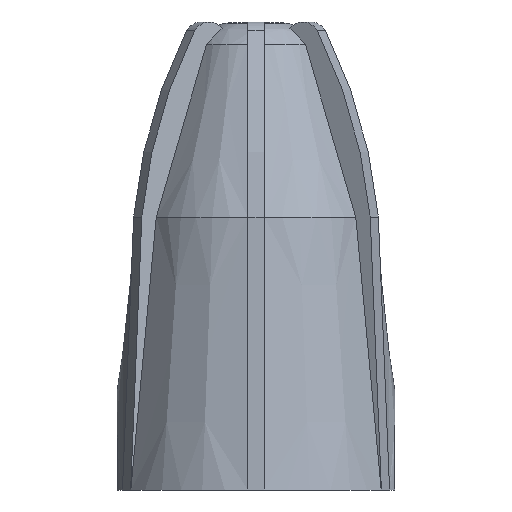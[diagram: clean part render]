
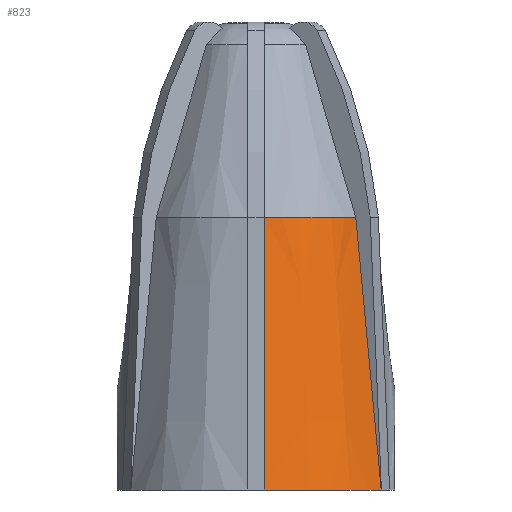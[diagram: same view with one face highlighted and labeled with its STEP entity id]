
A CAD part, left-side view. The second image highlights one B-rep face of the part: STEP entity #823.
In plain terms, the highlighted conical face has half-angle 6.114 degrees and reference radius 9.15 mm.
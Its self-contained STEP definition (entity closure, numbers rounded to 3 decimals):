
#329 = ORIENTED_EDGE ( 'NONE', *, *, #1893, .F. ) ;
#389 = ORIENTED_EDGE ( 'NONE', *, *, #1204, .F. ) ;
#401 = AXIS2_PLACEMENT_3D ( 'NONE', #543, #1621, #679 ) ;
#477 = VERTEX_POINT ( 'NONE', #633 ) ;
#533 = EDGE_CURVE ( 'NONE', #1678, #477, #964, .T. ) ;
#534 = DIRECTION ( 'NONE',  ( 0., 0., -1. ) ) ;
#543 = CARTESIAN_POINT ( 'NONE',  ( 0., 0., 0. ) ) ;
#561 = VERTEX_POINT ( 'NONE', #737 ) ;
#620 = CARTESIAN_POINT ( 'NONE',  ( -4.578, -6.929, 7.892 ) ) ;
#633 = CARTESIAN_POINT ( 'NONE',  ( -9.136, -0.5, 0. ) ) ;
#679 = DIRECTION ( 'NONE',  ( -1., 0., 0. ) ) ;
#691 = EDGE_LOOP ( 'NONE', ( #329, #1494, #1664, #389 ) ) ;
#737 = CARTESIAN_POINT ( 'NONE',  ( -4.105, -6.109, 16.71 ) ) ;
#823 = ADVANCED_FACE ( 'NONE', ( #1982 ), #1393, .T. ) ;
#826 = CARTESIAN_POINT ( 'NONE',  ( -4.939, -7.554, 1.161 ) ) ;
#861 = EDGE_CURVE ( 'NONE', #561, #1678, #1233, .T. ) ;
#863 = DIRECTION ( 'NONE',  ( 0., 0., -1. ) ) ;
#915 = CARTESIAN_POINT ( 'NONE',  ( -7.343, -0.5, 16.71 ) ) ;
#943 = CARTESIAN_POINT ( 'NONE',  ( -8.539, -0.5, 5.57 ) ) ;
#964 = B_SPLINE_CURVE_WITH_KNOTS ( 'NONE', 3,
 ( #1294, #1138, #943, #1521 ),
 .UNSPECIFIED., .F., .F.,
 ( 4, 4 ),
 ( 0.038, 0.055 ),
 .UNSPECIFIED. ) ;
#993 = CARTESIAN_POINT ( 'NONE',  ( -5.001, -7.662, 0. ) ) ;
#1113 = CARTESIAN_POINT ( 'NONE',  ( -5.001, -7.662, 0. ) ) ;
#1125 = CARTESIAN_POINT ( 'NONE',  ( -4.877, -7.447, 2.322 ) ) ;
#1127 = AXIS2_PLACEMENT_3D ( 'NONE', #1363, #863, #1228 ) ;
#1138 = CARTESIAN_POINT ( 'NONE',  ( -7.941, -0.5, 11.14 ) ) ;
#1204 = EDGE_CURVE ( 'NONE', #1205, #477, #1540, .T. ) ;
#1205 = VERTEX_POINT ( 'NONE', #1113 ) ;
#1228 = DIRECTION ( 'NONE',  ( -1., 0., 0. ) ) ;
#1233 = CIRCLE ( 'NONE', #1127, 7.36 ) ;
#1259 = CARTESIAN_POINT ( 'NONE',  ( -4.341, -6.519, 12.301 ) ) ;
#1294 = CARTESIAN_POINT ( 'NONE',  ( -7.343, -0.5, 16.71 ) ) ;
#1296 = CARTESIAN_POINT ( 'NONE',  ( -4.105, -6.109, 16.71 ) ) ;
#1363 = CARTESIAN_POINT ( 'NONE',  ( 0., 0., 16.71 ) ) ;
#1393 = CONICAL_SURFACE ( 'NONE', #401, 9.15, 0.107 ) ;
#1468 = CARTESIAN_POINT ( 'NONE',  ( 0., 0., 0. ) ) ;
#1494 = ORIENTED_EDGE ( 'NONE', *, *, #861, .T. ) ;
#1521 = CARTESIAN_POINT ( 'NONE',  ( -9.136, -0.5, 0. ) ) ;
#1532 = B_SPLINE_CURVE_WITH_KNOTS ( 'NONE', 3,
 ( #1296, #1259, #620, #1568, #1125, #826, #993 ),
 .UNSPECIFIED., .F., .F.,
 ( 4, 3, 4 ),
 ( 0., 0.013, 0.017 ),
 .UNSPECIFIED. ) ;
#1540 = CIRCLE ( 'NONE', #1736, 9.15 ) ;
#1568 = CARTESIAN_POINT ( 'NONE',  ( -4.814, -7.339, 3.483 ) ) ;
#1589 = DIRECTION ( 'NONE',  ( -1., 0., 0. ) ) ;
#1621 = DIRECTION ( 'NONE',  ( 0., 0., -1. ) ) ;
#1664 = ORIENTED_EDGE ( 'NONE', *, *, #533, .T. ) ;
#1678 = VERTEX_POINT ( 'NONE', #915 ) ;
#1736 = AXIS2_PLACEMENT_3D ( 'NONE', #1468, #534, #1589 ) ;
#1893 = EDGE_CURVE ( 'NONE', #561, #1205, #1532, .T. ) ;
#1982 = FACE_OUTER_BOUND ( 'NONE', #691, .T. ) ;
